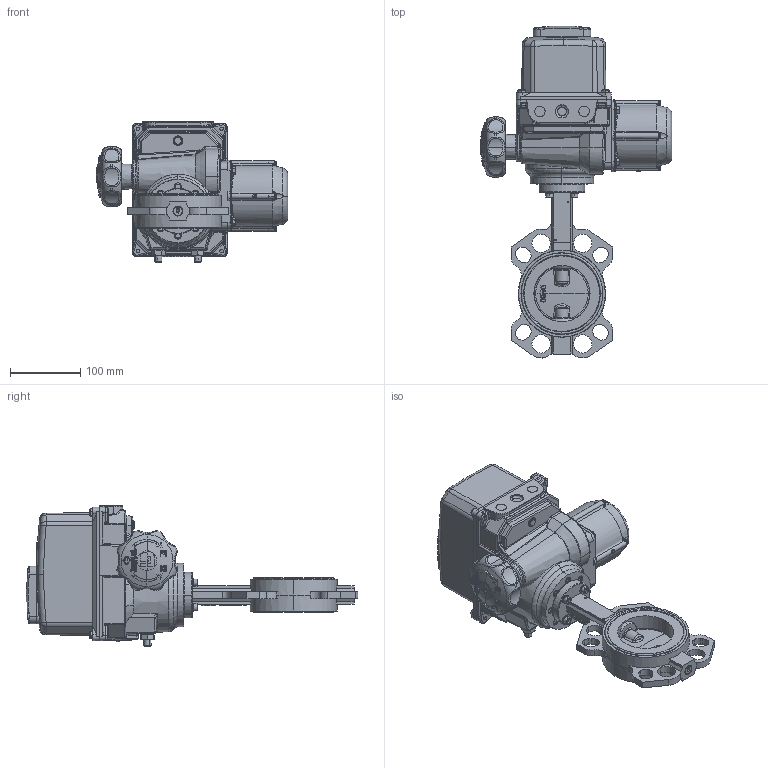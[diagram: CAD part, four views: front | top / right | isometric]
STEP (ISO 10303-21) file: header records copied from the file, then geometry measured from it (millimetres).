
FILE_DESCRIPTION (( 'STEP AP203' ), '1' );
FILE_NAME ('VPI-B24 DN80.step', '2016-09-29T14:56:29', ( 'TECOFI' ), ( '' ), 'SwSTEP 2.0', 'SolidWorks 2014', '' );
FILE_SCHEMA (( 'CONFIG_CONTROL_DESIGN' ));
Length unit declared in the file: millimetre
Products named in the file (1): VPI-B24 DN80
Bounding box: 272.5 x 472.24 x 199.8 mm (x, y, z)
Volume: 5099455.7 mm3; surface area: 345168.9 mm2
Topology: 14 solids, 14 shells, 2926 faces, 7543 edges, 4781 vertices
Faces by surface type: plane 1369, bspline 664, cylinder 511, cone 147, torus 127, sphere 108
Entity records: 124900 total; most frequent: CARTESIAN_POINT 58497, ORIENTED_EDGE 14964, DIRECTION 12229, EDGE_CURVE 7482, VERTEX_POINT 4781, AXIS2_PLACEMENT_3D 4453, LINE 3323, VECTOR 3323
